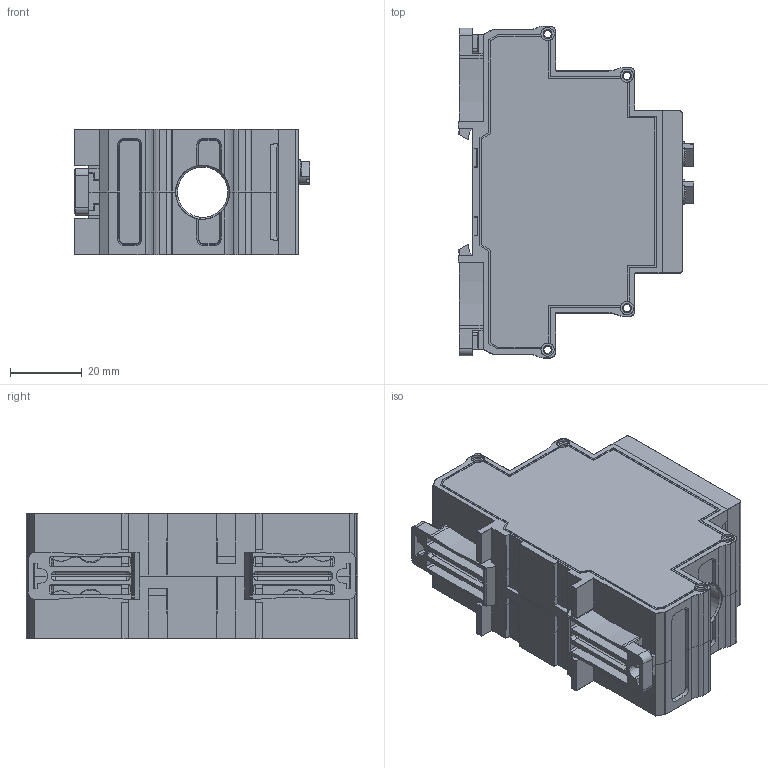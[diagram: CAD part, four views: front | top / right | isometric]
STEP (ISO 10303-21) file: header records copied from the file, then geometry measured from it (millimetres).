
FILE_DESCRIPTION(('STEP AP242'), '1');
FILE_NAME('ﾑ碚濱ﾐﾏﾍ-1ﾌ', '', ('UNSPECIFIED'), ('UNSPECIFIED'), 'C3D Converter', 'C3D Toolkit', '');
FILE_SCHEMA(('AP242_MANAGED_MODEL_BASED_3D_ENGINEERING_MIM_LF { 1 0 10303 442 1 1 4 }'));
Length unit declared in the file: millimetre
Products named in the file (19): Case_UC1-2sR-2024_SimpleModel_17mm; Case13-18-23mm_2step_Lock_v01a_Build20140909_1552; Case_UC1-2sR-2024_Plug_35mm; UC1-2sR-2024_Plug_13mm; Case_UC1-2sR-2024_Plug_35mm_add; Case_UC1-2sR-2025_Face_FR.FP.0000083; DG128-5.08_Configurable_5.08x3; R-knob_2017_Hex2mm__Џｮ гｬｮｫзｭЁо; РКН-3-15-15 mark 12-11-14
Assembly tree (20 placements, depth 3):
  (unnamed)
    Case_UC1-2sR-2024_SimpleModel_17mm
    Case_UC1-2sR-2024_SimpleModel_17mm
    Case13-18-23mm_2step_Lock_v01a_Build20140909_1552  x2
    Case_UC1-2sR-2024_Plug_35mm
    Case_UC1-2sR-2024_Plug_35mm
    Case_UC1-2sR-2024_Plug_35mm
    (unnamed)
      UC1-2sR-2024_Plug_13mm
      Case_UC1-2sR-2024_Plug_35mm_add
    (unnamed)
    Case_UC1-2sR-2025_Face_FR.FP.0000083
    DG128-5.08_Configurable_5.08x3
    R-knob_2017_Hex2mm__Џｮ гｬｮｫзｭЁо  x2
    (unnamed)
    (unnamed)
    РКН-3-15-15 mark 12-11-14
    (unnamed)
    (unnamed)
Bounding box: 65.63 x 92.4 x 35 mm (x, y, z)
Volume: 34346.6 mm3; surface area: 56780.5 mm2
Topology: 45 solids, 45 shells, 4860 faces, 13308 edges, 8516 vertices
Faces by surface type: plane 3291, cylinder 753, extrusion 338, torus 224, bspline 102, cone 94, sphere 58
Full cylindrical faces by diameter (mm): 1.238 x3, 2.1 x10, 2.2 x2, 3.7 x8, 3.9 x3, 4.5 x2, 5.2 x2, 14 x1, 15 x1
Entity records: 193294 total; most frequent: CARTESIAN_POINT 37328, ORIENTED_EDGE 25672, DIRECTION 22152, EDGE_CURVE 12836, VECTOR 10374, LINE 10036, VERTEX_POINT 8287, AXIS2_PLACEMENT_3D 5889
